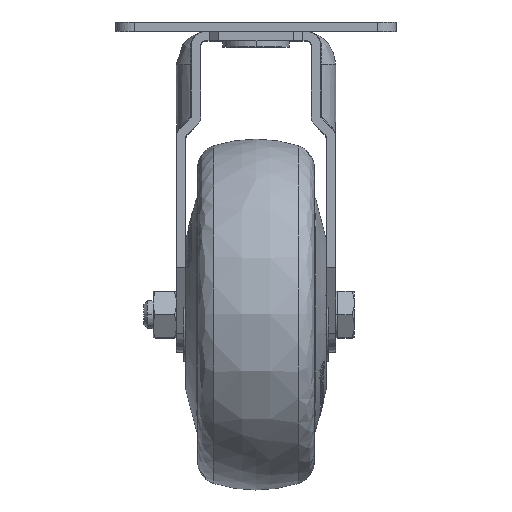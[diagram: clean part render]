
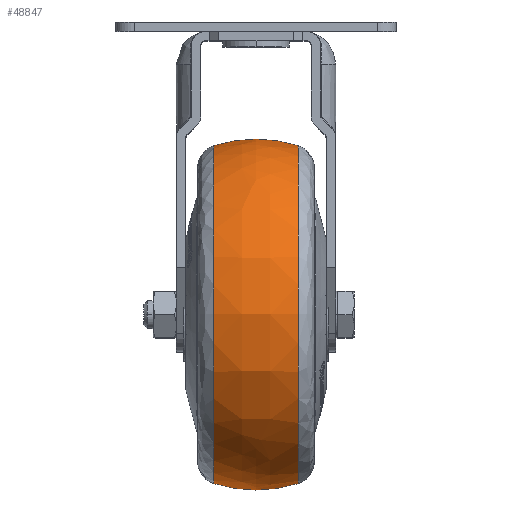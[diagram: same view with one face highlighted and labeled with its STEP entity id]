
A CAD part, top view. The second image highlights one B-rep face of the part: STEP entity #48847.
In plain terms, the highlighted free-form (B-spline) face has degree [3, 3] with [4, 4] control points.
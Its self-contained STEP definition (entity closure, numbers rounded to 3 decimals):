
#217 = DIRECTION ( 'NONE',  ( 1., 0., 0. ) ) ;
#730 = EDGE_CURVE ( 'NONE', #8955, #19686, #869, .T. ) ;
#869 = CIRCLE ( 'NONE', #39397, 30. ) ;
#2730 = CARTESIAN_POINT ( 'NONE',  ( -3.095, -100.475, 0. ) ) ;
#3323 = EDGE_LOOP ( 'NONE', ( #12534, #23331, #45227, #39326 ) ) ;
#6686 = FACE_OUTER_BOUND ( 'NONE', #3323, .T. ) ;
#6812 = CARTESIAN_POINT ( 'NONE',  ( -3.095, -24.525, 75.95 ) ) ;
#8955 = VERTEX_POINT ( 'NONE', #15673 ) ;
#9264 = AXIS2_PLACEMENT_3D ( 'NONE', #17612, #45754, #21612 ) ;
#9877 = EDGE_CURVE ( 'NONE', #8955, #19130, #30848, .T. ) ;
#9884 = CARTESIAN_POINT ( 'NONE',  ( 9., -98.618, 0. ) ) ;
#9967 = DIRECTION ( 'NONE',  ( 0., 0., 1. ) ) ;
#10949 = CARTESIAN_POINT ( 'NONE',  ( 3.095, -100.475, 0. ) ) ;
#11145 = DIRECTION ( 'NONE',  ( 0., 0., -1. ) ) ;
#11790 = DIRECTION ( 'NONE',  ( 0., 1., 0. ) ) ;
#12534 = ORIENTED_EDGE ( 'NONE', *, *, #730, .F. ) ;
#14407 = EDGE_CURVE ( 'NONE', #44283, #19686, #42072, .T. ) ;
#14984 = CARTESIAN_POINT ( 'NONE',  ( 3.095, -24.525, 75.95 ) ) ;
#15474 = CARTESIAN_POINT ( 'NONE',  ( -9., -98.618, 0. ) ) ;
#15673 = CARTESIAN_POINT ( 'NONE',  ( -9., -26.382, 0. ) ) ;
#17612 = CARTESIAN_POINT ( 'NONE',  ( 9., -62.5, 0. ) ) ;
#19017 = CARTESIAN_POINT ( 'NONE',  ( 9., -98.618, 0. ) ) ;
#19130 = VERTEX_POINT ( 'NONE', #15474 ) ;
#19686 = VERTEX_POINT ( 'NONE', #21228 ) ;
#21228 = CARTESIAN_POINT ( 'NONE',  ( 9., -26.382, 0. ) ) ;
#21612 = DIRECTION ( 'NONE',  ( 0., -1., 0. ) ) ;
#21964 = AXIS2_PLACEMENT_3D ( 'NONE', #24374, #217, #28422 ) ;
#22818 = CARTESIAN_POINT ( 'NONE',  ( -9., -98.618, 0. ) ) ;
#23004 = CARTESIAN_POINT ( 'NONE',  ( 9., -26.382, 72.236 ) ) ;
#23331 = ORIENTED_EDGE ( 'NONE', *, *, #9877, .T. ) ;
#24374 = CARTESIAN_POINT ( 'NONE',  ( -9., -62.5, 0. ) ) ;
#24393 = AXIS2_PLACEMENT_3D ( 'NONE', #34117, #9967, #38161 ) ;
#25217 = EDGE_CURVE ( 'NONE', #19130, #44283, #40779, .T. ) ;
#26880 = CARTESIAN_POINT ( 'NONE',  ( -9., -26.382, 0. ) ) ;
#28422 = DIRECTION ( 'NONE',  ( 0., -1., 0. ) ) ;
#30848 = CIRCLE ( 'NONE', #21964, 36.118 ) ;
#30950 = CARTESIAN_POINT ( 'NONE',  ( -3.095, -100.475, 75.95 ) ) ;
#34117 = CARTESIAN_POINT ( 'NONE',  ( 0., -70., 0. ) ) ;
#34878 = CARTESIAN_POINT ( 'NONE',  ( -9., -98.618, 72.236 ) ) ;
#35038 =( BOUNDED_SURFACE ( )  B_SPLINE_SURFACE ( 3, 3, ( 
 ( #22818, #34878, #51104, #26880 ),
 ( #2730, #30950, #6812, #35056 ),
 ( #10949, #39102, #14984, #43125 ),
 ( #19017, #47190, #23004, #51280 ) ),
 .UNSPECIFIED., .F., .F., .T. ) 
 B_SPLINE_SURFACE_WITH_KNOTS ( ( 4, 4 ),
 ( 4, 4 ),
 ( 0., 1. ),
 ( 0., 1. ),
 .UNSPECIFIED. ) 
 GEOMETRIC_REPRESENTATION_ITEM ( )  RATIONAL_B_SPLINE_SURFACE ( (
 ( 1., 0.333, 0.333, 1.),
 ( 0.969, 0.323, 0.323, 0.969),
 ( 0.969, 0.323, 0.323, 0.969),
 ( 1., 0.333, 0.333, 1.) ) ) 
 REPRESENTATION_ITEM ( '' )  SURFACE ( )  );
#35056 = CARTESIAN_POINT ( 'NONE',  ( -3.095, -24.525, 0. ) ) ;
#35736 = CARTESIAN_POINT ( 'NONE',  ( 0., -55., 0. ) ) ;
#38161 = DIRECTION ( 'NONE',  ( 0., -1., 0. ) ) ;
#39102 = CARTESIAN_POINT ( 'NONE',  ( 3.095, -100.475, 75.95 ) ) ;
#39326 = ORIENTED_EDGE ( 'NONE', *, *, #14407, .T. ) ;
#39397 = AXIS2_PLACEMENT_3D ( 'NONE', #35736, #11145, #11790 ) ;
#40779 = CIRCLE ( 'NONE', #24393, 30. ) ;
#42072 = CIRCLE ( 'NONE', #9264, 36.118 ) ;
#43125 = CARTESIAN_POINT ( 'NONE',  ( 3.095, -24.525, 0. ) ) ;
#44283 = VERTEX_POINT ( 'NONE', #9884 ) ;
#45227 = ORIENTED_EDGE ( 'NONE', *, *, #25217, .T. ) ;
#45754 = DIRECTION ( 'NONE',  ( -1., 0., 0. ) ) ;
#47190 = CARTESIAN_POINT ( 'NONE',  ( 9., -98.618, 72.236 ) ) ;
#48847 = ADVANCED_FACE ( 'NONE', ( #6686 ), #35038, .T. ) ;
#51104 = CARTESIAN_POINT ( 'NONE',  ( -9., -26.382, 72.236 ) ) ;
#51280 = CARTESIAN_POINT ( 'NONE',  ( 9., -26.382, 0. ) ) ;
